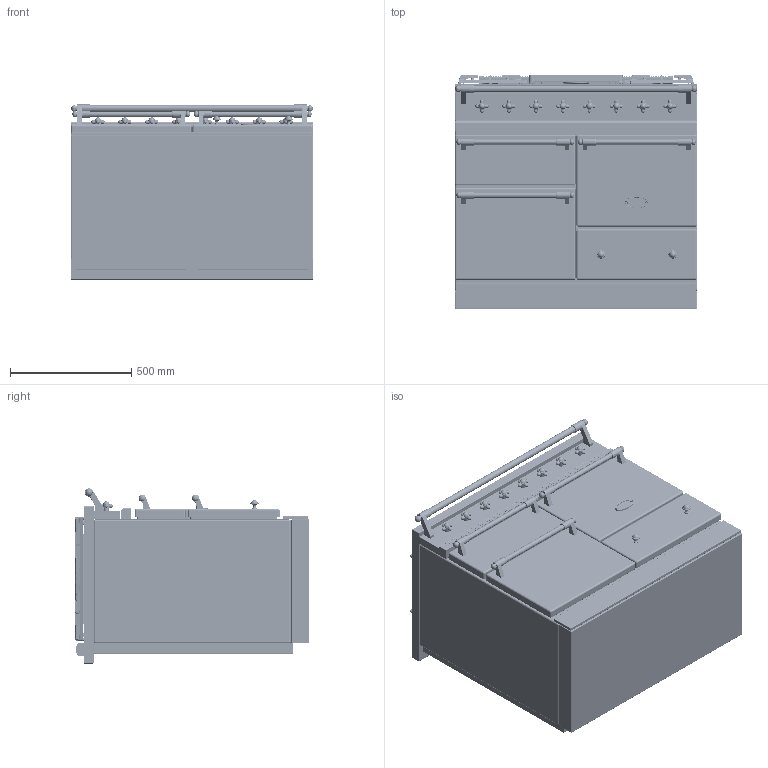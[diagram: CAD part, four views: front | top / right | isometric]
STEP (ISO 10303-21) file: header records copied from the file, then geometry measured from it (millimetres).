
FILE_DESCRIPTION((''),'2;1');
FILE_NAME('LCF1053_ASM','2021-12-02T09:44:21',('j.cheno'),(''),'CREO PARAMETRIC BY PTC INC, 2017260','CREO PARAMETRIC BY PTC INC, 2017260','');
FILE_SCHEMA(('AP203_CONFIGURATION_CONTROLLED_3D_DESIGN_OF_MECHANICAL_PARTS_AND_ASSEMBLIES_MIM_LF { 1 0 10303 403 2 1 2 }'));
Products named in the file (27): BASE_EXPORT_CHAGNY; 65650003; 65650004; 6531940; 6531941; 6538399; 1931942; 65080022_AF0; 6531942_ASM; 6531943; 65049009; 65650001; BASE_EXPORT_CHAGNY_ASM; TABLE_1000_CLASSIQUE; 3KW; 5KW; 1_5KW; 4KW; 65062008; 65062012; 65149005; 90000549_ASM; 6537024; 90000487_ASM; CHEMINEE_2020_LG371_EXPORT_STEP; TABLE_1000_TRADITION_ASM; LCF1053_ASM
Assembly tree (48 placements, depth 4):
  LCF1053_ASM
    BASE_EXPORT_CHAGNY_ASM
      BASE_EXPORT_CHAGNY
      65650003
      65650004
      6531940  x3
      6531941  x3
      6531942_ASM  x8
        6538399
        1931942
        65080022_AF0
      6531943  x2
      65049009
      65650001
    TABLE_1000_TRADITION_ASM
      TABLE_1000_CLASSIQUE
      3KW  x2
      5KW
      1_5KW
      4KW
      90000549_ASM
        65062008
        65062012
        65149005  x4
      90000487_ASM  x2
        6537024
        65149005
      CHEMINEE_2020_LG371_EXPORT_STEP  x2
Bounding box: 1000 x 967 x 724 mm (x, y, z)
Volume: 535334484.3 mm3; surface area: 9172876.1 mm2
Topology: 68 solids, 78 shells, 9190 faces, 23783 edges, 14756 vertices
Faces by surface type: plane 4391, cylinder 2476, bspline 1014, torus 368, sphere 332, cone 327, extrusion 266, revolution 16
Entity records: 216887 total; most frequent: CARTESIAN_POINT 58426, ORIENTED_EDGE 26146, DIRECTION 23907, EDGE_CURVE 13083, PRESENTATION_STYLE_ASSIGNMENT 9420, STYLED_ITEM 9397, CURVE_STYLE 9200, VECTOR 8559
